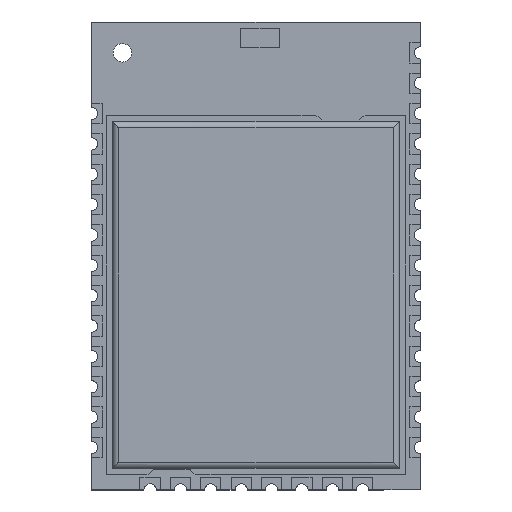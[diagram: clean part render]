
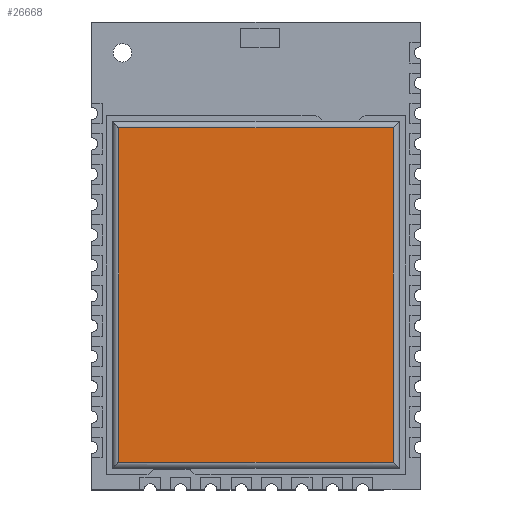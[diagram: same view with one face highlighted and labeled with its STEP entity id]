
A CAD part, top view. The second image highlights one B-rep face of the part: STEP entity #26668.
In plain terms, the highlighted planar face has unit normal (0, 0, 1).
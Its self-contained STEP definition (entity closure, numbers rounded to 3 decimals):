
#155 = AXIS2_PLACEMENT_3D ( 'NONE', #24387, #11525, #26495 ) ;
#1325 = VERTEX_POINT ( 'NONE', #3050 ) ;
#1765 = EDGE_LOOP ( 'NONE', ( #21512, #13375, #25491, #17028 ) ) ;
#2138 = FACE_OUTER_BOUND ( 'NONE', #1765, .T. ) ;
#3050 = CARTESIAN_POINT ( 'NONE',  ( 0.223, -0.335, 0.087 ) ) ;
#3204 = LINE ( 'NONE', #25883, #19622 ) ;
#3208 = EDGE_CURVE ( 'NONE', #4560, #17394, #20880, .T. ) ;
#4560 = VERTEX_POINT ( 'NONE', #18589 ) ;
#5150 = CARTESIAN_POINT ( 'NONE',  ( -0.233, 0.208, 0.087 ) ) ;
#5418 = CARTESIAN_POINT ( 'NONE',  ( 0.223, 0.218, 0.087 ) ) ;
#5436 = CARTESIAN_POINT ( 'NONE',  ( 0.223, 0.208, 0.087 ) ) ;
#9305 = EDGE_CURVE ( 'NONE', #16993, #4560, #16474, .T. ) ;
#10120 = VECTOR ( 'NONE', #16866, 1000. ) ;
#10399 = LINE ( 'NONE', #5418, #12390 ) ;
#10766 = VECTOR ( 'NONE', #17965, 1000. ) ;
#11073 = CARTESIAN_POINT ( 'NONE',  ( -0.223, -0.335, 0.087 ) ) ;
#11340 = PLANE ( 'NONE',  #155 ) ;
#11525 = DIRECTION ( 'NONE',  ( 0., 0., 1. ) ) ;
#12390 = VECTOR ( 'NONE', #20371, 1000. ) ;
#13068 = DIRECTION ( 'NONE',  ( 1., 0., 0. ) ) ;
#13375 = ORIENTED_EDGE ( 'NONE', *, *, #9305, .T. ) ;
#16474 = LINE ( 'NONE', #5150, #10766 ) ;
#16866 = DIRECTION ( 'NONE',  ( 0., -1., 0. ) ) ;
#16993 = VERTEX_POINT ( 'NONE', #5436 ) ;
#17028 = ORIENTED_EDGE ( 'NONE', *, *, #25532, .T. ) ;
#17394 = VERTEX_POINT ( 'NONE', #11073 ) ;
#17965 = DIRECTION ( 'NONE',  ( -1., 0., 0. ) ) ;
#18589 = CARTESIAN_POINT ( 'NONE',  ( -0.223, 0.208, 0.087 ) ) ;
#19622 = VECTOR ( 'NONE', #13068, 1000. ) ;
#20033 = CARTESIAN_POINT ( 'NONE',  ( -0.223, -0.345, 0.087 ) ) ;
#20371 = DIRECTION ( 'NONE',  ( 0., 1., 0. ) ) ;
#20880 = LINE ( 'NONE', #20033, #10120 ) ;
#21512 = ORIENTED_EDGE ( 'NONE', *, *, #22600, .T. ) ;
#22600 = EDGE_CURVE ( 'NONE', #1325, #16993, #10399, .T. ) ;
#24387 = CARTESIAN_POINT ( 'NONE',  ( 0., 0., 0.087 ) ) ;
#25491 = ORIENTED_EDGE ( 'NONE', *, *, #3208, .T. ) ;
#25532 = EDGE_CURVE ( 'NONE', #17394, #1325, #3204, .T. ) ;
#25883 = CARTESIAN_POINT ( 'NONE',  ( 0.233, -0.335, 0.087 ) ) ;
#26495 = DIRECTION ( 'NONE',  ( 1., 0., 0. ) ) ;
#26668 = ADVANCED_FACE ( 'NONE', ( #2138 ), #11340, .T. ) ;
